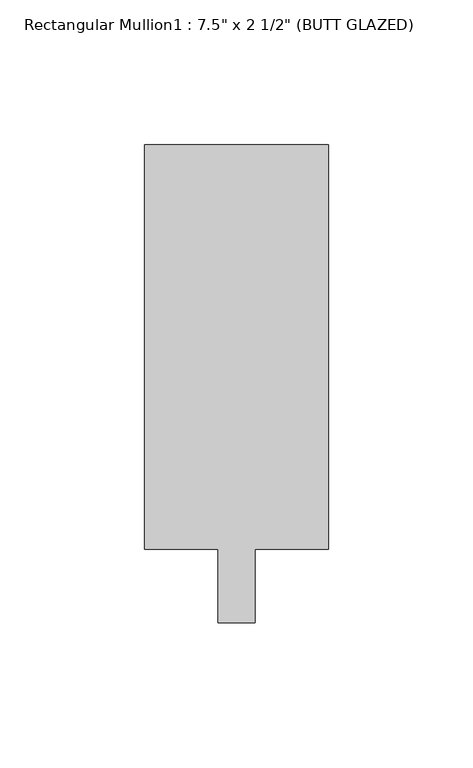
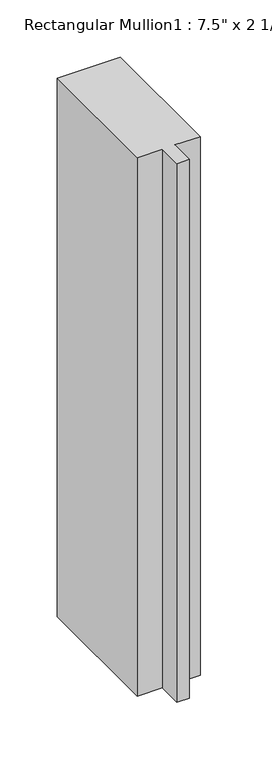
"""IFC4 building model written with IfcOpenShell, lengths in millimetres: member geometry."""

from ifc_helpers import new_model, si_unit, frame, origin, place, context, project, spatial, polyline, outline, extrude, source, transform, mapped, element, save


def member_a8d8cb7a(model_context):
    return source(origin(), model_context, "Body", "SweptSolid", [
        extrude(outline(polyline([(31.75, 165.1), (31.75, 25.4), (6.35, 25.4), (6.35, 0.0), (-6.35, 0.0), (-6.35, 25.4), (-31.75, 25.4), (-31.75, 165.1), (31.75, 165.1)])), frame((0.0, 0.0, -574.675), z_axis=(0.0, 0.0, 1.0), x_axis=(1.0, 0.0, 0.0)), (0.0, 0.0, 1.0), 574.675),
    ])


if __name__ == "__main__":
    model = new_model("IFC4")
    model_context = context("Model", 3, world=origin())
    ifc_project = project(units=[si_unit("LENGTHUNIT", "METRE", prefix="MILLI")], contexts=[model_context])
    site = spatial("IfcSite", under=ifc_project)
    building = spatial("IfcBuilding", under=site)
    placement = place(None, origin())
    member_shape = member_a8d8cb7a(model_context)
    element("IfcMember", 1, ObjectType="Rectangular Mullion1 : 7.5\" x 2 1/2\" (BUTT GLAZED)", at=placement, inside=building, context=model_context, shape_type="MappedRepresentation", body=[
        mapped(member_shape, transform((0.0, 0.0, 0.0), x_axis=(1.0, 0.0, 0.0), y_axis=(0.0, 1.0, 0.0), z_axis=(0.0, 0.0, 1.0))),
    ])
    save(model, "model.ifc")
